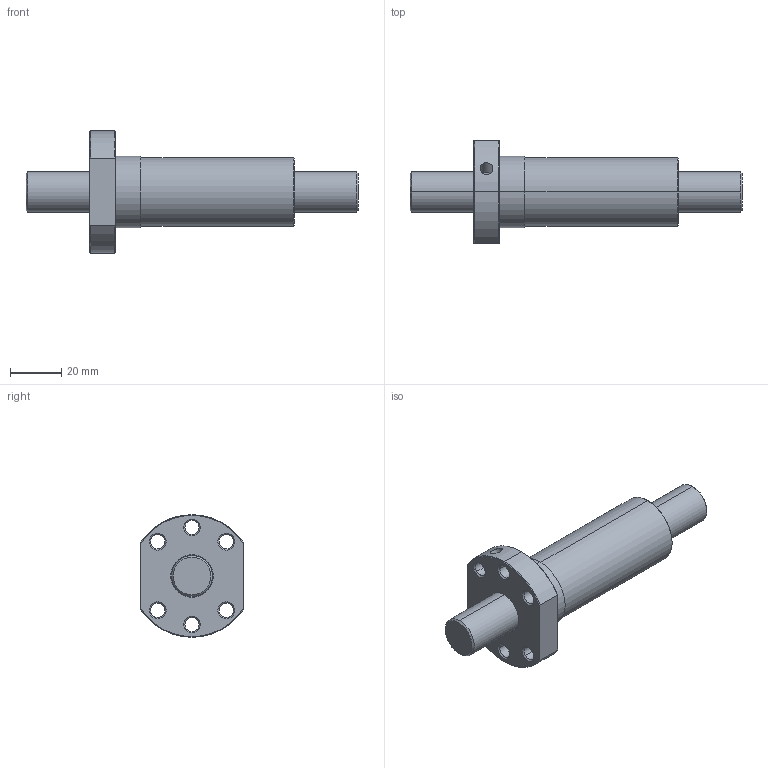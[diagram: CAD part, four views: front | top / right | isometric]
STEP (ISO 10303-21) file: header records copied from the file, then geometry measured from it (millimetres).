
FILE_DESCRIPTION(('no description'),'unknown implementation level');
FILE_NAME('R16_05T3_DDB_130_130_0_023_52.stp',' ',('HIWIN GmbH'),('CADClick - KiM GmbH - www.kimweb.de'),'unknown preprocess','ACIS','unknown authorization');
FILE_SCHEMA(('CONFIG_CONTROL_DESIGN'));
Length unit declared in the file: millimetre
Products named in the file (2): 1; 2
Bounding box: 130 x 40 x 48 mm (x, y, z)
Volume: 65521.6 mm3; surface area: 22079.9 mm2
Topology: 2 solids, 2 shells, 78 faces, 176 edges, 103 vertices
Faces by surface type: cone 44, cylinder 26, plane 8
Entity records: 2329 total; most frequent: CARTESIAN_POINT 440, DIRECTION 416, ORIENTED_EDGE 348, EDGE_CURVE 174, AXIS2_PLACEMENT_3D 172, VERTEX_POINT 103, EDGE_LOOP 95, CIRCLE 92
